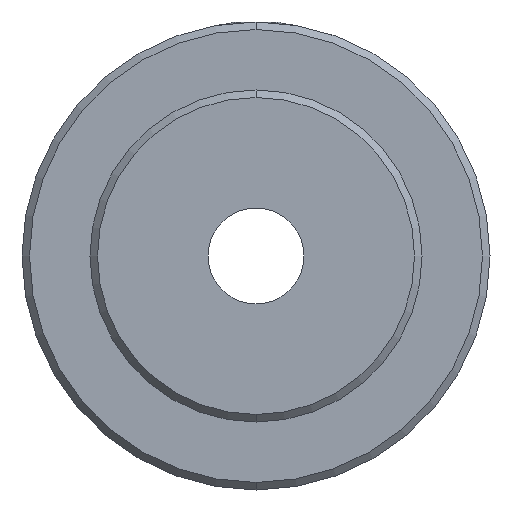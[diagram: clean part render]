
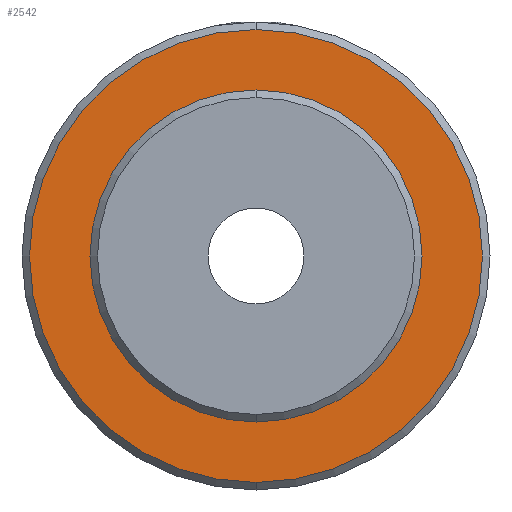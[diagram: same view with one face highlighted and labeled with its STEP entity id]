
A CAD part, front view. The second image highlights one B-rep face of the part: STEP entity #2542.
In plain terms, the highlighted planar face has unit normal (0, -1, 0).
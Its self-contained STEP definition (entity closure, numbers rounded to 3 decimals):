
#197 = DIRECTION ( 'NONE',  ( 0., 0., 1. ) ) ;
#246 = AXIS2_PLACEMENT_3D ( 'NONE', #1390, #3491, #197 ) ;
#506 = AXIS2_PLACEMENT_3D ( 'NONE', #3361, #1305, #3404 ) ;
#538 = DIRECTION ( 'NONE',  ( 0., 1., 0. ) ) ;
#564 = DIRECTION ( 'NONE',  ( 0., 0., 1. ) ) ;
#627 = CARTESIAN_POINT ( 'NONE',  ( 0., 8., 0. ) ) ;
#701 = FACE_BOUND ( 'NONE', #2925, .T. ) ;
#864 = ORIENTED_EDGE ( 'NONE', *, *, #1106, .F. ) ;
#886 = DIRECTION ( 'NONE',  ( 0., 1., 0. ) ) ;
#1106 = EDGE_CURVE ( 'NONE', #2576, #2903, #2627, .T. ) ;
#1159 = CIRCLE ( 'NONE', #3887, 10. ) ;
#1213 = DIRECTION ( 'NONE',  ( 0., 0., 1. ) ) ;
#1253 = CARTESIAN_POINT ( 'NONE',  ( 0., 8., -10. ) ) ;
#1258 = ORIENTED_EDGE ( 'NONE', *, *, #3090, .T. ) ;
#1305 = DIRECTION ( 'NONE',  ( 0., 1., 0. ) ) ;
#1390 = CARTESIAN_POINT ( 'NONE',  ( 0., 8., 0. ) ) ;
#1455 = EDGE_LOOP ( 'NONE', ( #864, #3898 ) ) ;
#1501 = CARTESIAN_POINT ( 'NONE',  ( 0., 8., 10. ) ) ;
#1550 = EDGE_CURVE ( 'NONE', #2628, #3838, #1159, .T. ) ;
#1625 = ORIENTED_EDGE ( 'NONE', *, *, #1550, .T. ) ;
#1645 = CIRCLE ( 'NONE', #246, 10. ) ;
#2083 = AXIS2_PLACEMENT_3D ( 'NONE', #2343, #538, #564 ) ;
#2085 = PLANE ( 'NONE',  #2083 ) ;
#2097 = CARTESIAN_POINT ( 'NONE',  ( 0., 8., 15. ) ) ;
#2222 = FACE_OUTER_BOUND ( 'NONE', #1455, .T. ) ;
#2234 = AXIS2_PLACEMENT_3D ( 'NONE', #3356, #3388, #2484 ) ;
#2288 = CIRCLE ( 'NONE', #506, 15. ) ;
#2343 = CARTESIAN_POINT ( 'NONE',  ( 15., 8., 0. ) ) ;
#2484 = DIRECTION ( 'NONE',  ( 0., 0., 1. ) ) ;
#2542 = ADVANCED_FACE ( 'NONE', ( #2222, #701 ), #2085, .F. ) ;
#2576 = VERTEX_POINT ( 'NONE', #2097 ) ;
#2627 = CIRCLE ( 'NONE', #2234, 15. ) ;
#2628 = VERTEX_POINT ( 'NONE', #1501 ) ;
#2903 = VERTEX_POINT ( 'NONE', #3718 ) ;
#2925 = EDGE_LOOP ( 'NONE', ( #1625, #1258 ) ) ;
#3090 = EDGE_CURVE ( 'NONE', #3838, #2628, #1645, .T. ) ;
#3356 = CARTESIAN_POINT ( 'NONE',  ( 0., 8., 0. ) ) ;
#3361 = CARTESIAN_POINT ( 'NONE',  ( 0., 8., 0. ) ) ;
#3388 = DIRECTION ( 'NONE',  ( 0., 1., 0. ) ) ;
#3404 = DIRECTION ( 'NONE',  ( 0., 0., 1. ) ) ;
#3491 = DIRECTION ( 'NONE',  ( 0., 1., 0. ) ) ;
#3718 = CARTESIAN_POINT ( 'NONE',  ( 0., 8., -15. ) ) ;
#3838 = VERTEX_POINT ( 'NONE', #1253 ) ;
#3886 = EDGE_CURVE ( 'NONE', #2903, #2576, #2288, .T. ) ;
#3887 = AXIS2_PLACEMENT_3D ( 'NONE', #627, #886, #1213 ) ;
#3898 = ORIENTED_EDGE ( 'NONE', *, *, #3886, .F. ) ;
